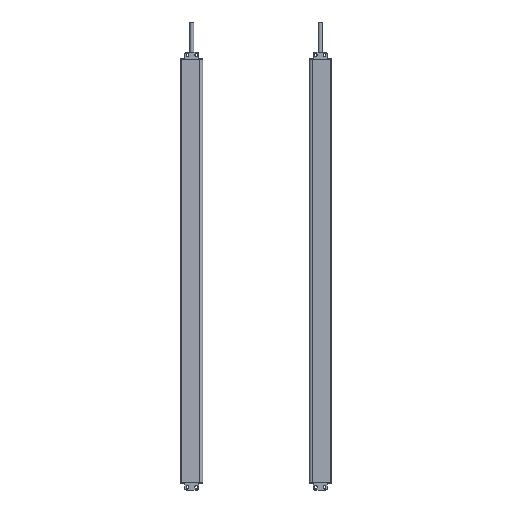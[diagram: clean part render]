
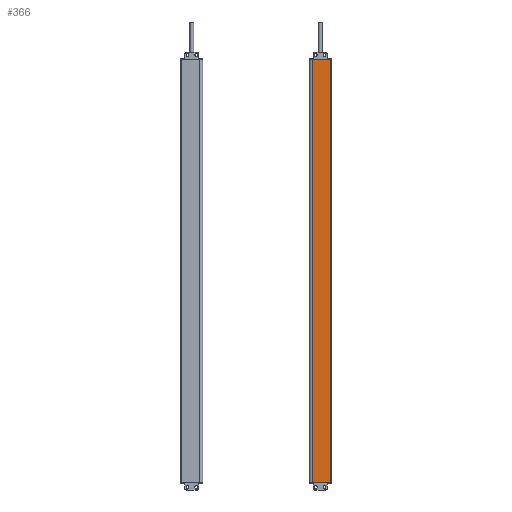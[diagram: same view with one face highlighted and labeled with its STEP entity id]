
A CAD part, front view. The second image highlights one B-rep face of the part: STEP entity #366.
In plain terms, the highlighted planar face has unit normal (0, -1, 0).
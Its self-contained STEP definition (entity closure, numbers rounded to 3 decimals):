
#123=PLANE('',#5869);
#366=ADVANCED_FACE('',(#797),#123,.T.);
#797=FACE_OUTER_BOUND('',#1073,.T.);
#1073=EDGE_LOOP('',(#1780,#1781,#1782,#1783));
#1780=ORIENTED_EDGE('',*,*,#3977,.T.);
#1781=ORIENTED_EDGE('',*,*,#3978,.F.);
#1782=ORIENTED_EDGE('',*,*,#3979,.F.);
#1783=ORIENTED_EDGE('',*,*,#3903,.T.);
#3351=VERTEX_POINT('',#8106);
#3352=VERTEX_POINT('',#8108);
#3421=VERTEX_POINT('',#8253);
#3422=VERTEX_POINT('',#8257);
#3903=EDGE_CURVE('',#3352,#3351,#4726,.T.);
#3977=EDGE_CURVE('',#3351,#3421,#4771,.T.);
#3978=EDGE_CURVE('',#3422,#3421,#4772,.T.);
#3979=EDGE_CURVE('',#3352,#3422,#4773,.T.);
#4726=LINE('',#8107,#5280);
#4771=LINE('',#8254,#5325);
#4772=LINE('',#8256,#5326);
#4773=LINE('',#8258,#5327);
#5280=VECTOR('',#6413,1.);
#5325=VECTOR('',#6522,1.);
#5326=VECTOR('',#6525,1.);
#5327=VECTOR('',#6526,1.);
#5869=AXIS2_PLACEMENT_3D('',#8259,#6527,#6528);
#6413=DIRECTION('',(1.,0.,0.));
#6522=DIRECTION('',(0.,0.,1.));
#6525=DIRECTION('',(1.,0.,0.));
#6526=DIRECTION('',(0.,0.,1.));
#6527=DIRECTION('',(0.,-1.,0.));
#6528=DIRECTION('',(-1.,0.,0.));
#8106=CARTESIAN_POINT('',(3.35,-1.3,-100.));
#8107=CARTESIAN_POINT('',(-21.15,-1.3,-100.));
#8108=CARTESIAN_POINT('',(-21.15,-1.3,-100.));
#8253=CARTESIAN_POINT('',(3.35,-1.3,462.));
#8254=CARTESIAN_POINT('',(3.35,-1.3,-100.));
#8256=CARTESIAN_POINT('',(-4122.897,-1.3,462.));
#8257=CARTESIAN_POINT('',(-21.15,-1.3,462.));
#8258=CARTESIAN_POINT('',(-21.15,-1.3,-100.));
#8259=CARTESIAN_POINT('',(-21.15,-1.3,-100.));
